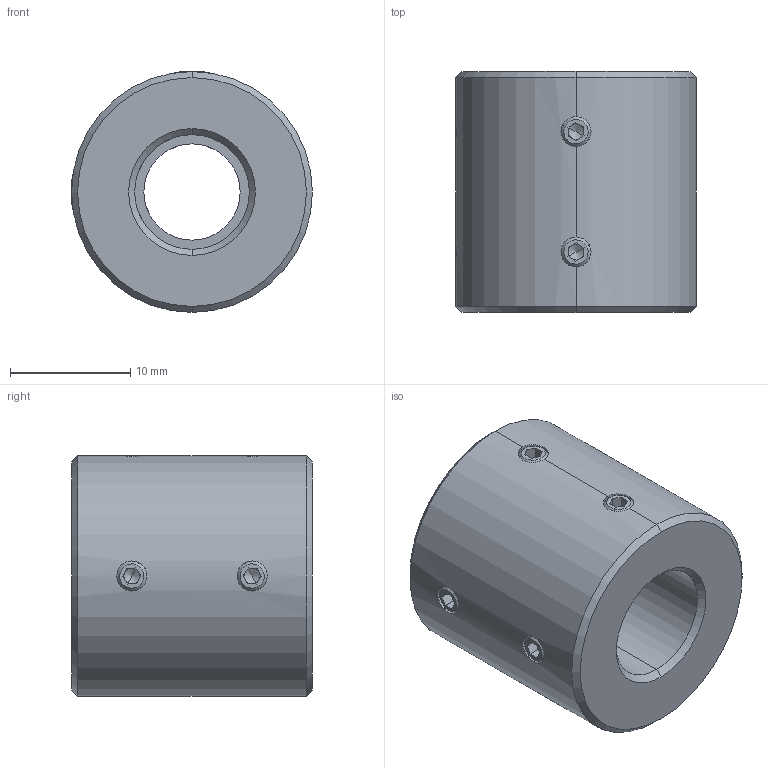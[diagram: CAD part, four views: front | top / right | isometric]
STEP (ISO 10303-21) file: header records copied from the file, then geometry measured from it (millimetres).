
FILE_DESCRIPTION (( 'STEP AP214' ), '1' );
FILE_NAME ('LL-D-D20L20-8-9.525.STEP', '2022-07-23T06:35:41', ( '' ), ( '' ), 'SwSTEP 2.0', 'SolidWorks 2022', '' );
FILE_SCHEMA (( 'AUTOMOTIVE_DESIGN' ));
Length unit declared in the file: millimetre
Products named in the file (1): LL-D-D20L20-8-9.525
Bounding box: 20 x 20 x 20 mm (x, y, z)
Volume: 5001.1 mm3; surface area: 2388.2 mm2
Topology: 1 solids, 1 shells, 113 faces, 286 edges, 176 vertices
Faces by surface type: plane 59, cone 32, cylinder 22
Entity records: 3638 total; most frequent: CARTESIAN_POINT 888, DIRECTION 582, ORIENTED_EDGE 556, EDGE_CURVE 278, AXIS2_PLACEMENT_3D 214, VERTEX_POINT 176, VECTOR 154, LINE 154
